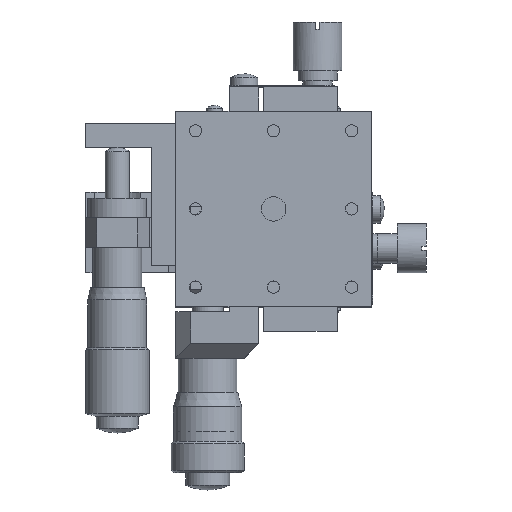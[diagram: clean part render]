
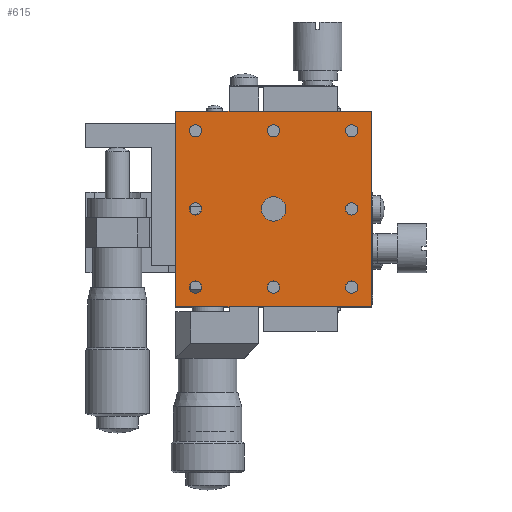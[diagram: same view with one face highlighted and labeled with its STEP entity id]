
A CAD part, top view. The second image highlights one B-rep face of the part: STEP entity #615.
In plain terms, the highlighted planar face has unit normal (0, 0, 1).
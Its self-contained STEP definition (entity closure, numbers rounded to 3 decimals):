
#615 = ADVANCED_FACE( '', ( #1349, #1350, #1351, #1352, #1353, #1354, #1355, #1356, #1357, #1358 ), #1359, .T. );
#1349 = FACE_BOUND( '', #2252, .T. );
#1350 = FACE_BOUND( '', #2253, .T. );
#1351 = FACE_BOUND( '', #2254, .T. );
#1352 = FACE_BOUND( '', #2255, .T. );
#1353 = FACE_BOUND( '', #2256, .T. );
#1354 = FACE_BOUND( '', #2257, .T. );
#1355 = FACE_BOUND( '', #2258, .T. );
#1356 = FACE_BOUND( '', #2259, .T. );
#1357 = FACE_BOUND( '', #2260, .T. );
#1358 = FACE_OUTER_BOUND( '', #2261, .T. );
#1359 = PLANE( '', #2262 );
#2252 = EDGE_LOOP( '', ( #4251 ) );
#2253 = EDGE_LOOP( '', ( #4252 ) );
#2254 = EDGE_LOOP( '', ( #4253 ) );
#2255 = EDGE_LOOP( '', ( #4254 ) );
#2256 = EDGE_LOOP( '', ( #4255 ) );
#2257 = EDGE_LOOP( '', ( #4256 ) );
#2258 = EDGE_LOOP( '', ( #4257 ) );
#2259 = EDGE_LOOP( '', ( #4258 ) );
#2260 = EDGE_LOOP( '', ( #4259 ) );
#2261 = EDGE_LOOP( '', ( #4260, #4261, #4262, #4263 ) );
#2262 = AXIS2_PLACEMENT_3D( '', #4264, #4265, #4266 );
#4251 = ORIENTED_EDGE( '', *, *, #5348, .T. );
#4252 = ORIENTED_EDGE( '', *, *, #5349, .T. );
#4253 = ORIENTED_EDGE( '', *, *, #5350, .T. );
#4254 = ORIENTED_EDGE( '', *, *, #5351, .T. );
#4255 = ORIENTED_EDGE( '', *, *, #5352, .T. );
#4256 = ORIENTED_EDGE( '', *, *, #5353, .T. );
#4257 = ORIENTED_EDGE( '', *, *, #5354, .T. );
#4258 = ORIENTED_EDGE( '', *, *, #5355, .T. );
#4259 = ORIENTED_EDGE( '', *, *, #5356, .T. );
#4260 = ORIENTED_EDGE( '', *, *, #5357, .F. );
#4261 = ORIENTED_EDGE( '', *, *, #5358, .F. );
#4262 = ORIENTED_EDGE( '', *, *, #5359, .F. );
#4263 = ORIENTED_EDGE( '', *, *, #5360, .F. );
#4264 = CARTESIAN_POINT( '', ( 0., 0., 60. ) );
#4265 = DIRECTION( '', ( 0., 0., 1. ) );
#4266 = DIRECTION( '', ( 0., -1., 0. ) );
#5348 = EDGE_CURVE( '', #6402, #6402, #6403, .T. );
#5349 = EDGE_CURVE( '', #6404, #6404, #6405, .T. );
#5350 = EDGE_CURVE( '', #6406, #6406, #6407, .T. );
#5351 = EDGE_CURVE( '', #6408, #6408, #6409, .T. );
#5352 = EDGE_CURVE( '', #6410, #6410, #6411, .T. );
#5353 = EDGE_CURVE( '', #6412, #6412, #6413, .T. );
#5354 = EDGE_CURVE( '', #6414, #6414, #6415, .T. );
#5355 = EDGE_CURVE( '', #6416, #6416, #6417, .T. );
#5356 = EDGE_CURVE( '', #6418, #6418, #6419, .T. );
#5357 = EDGE_CURVE( '', #6420, #6421, #6422, .T. );
#5358 = EDGE_CURVE( '', #6423, #6420, #6424, .T. );
#5359 = EDGE_CURVE( '', #6425, #6423, #6426, .T. );
#5360 = EDGE_CURVE( '', #6421, #6425, #6427, .T. );
#6402 = VERTEX_POINT( '', #8022 );
#6403 = CIRCLE( '', #8023, 2.5 );
#6404 = VERTEX_POINT( '', #8024 );
#6405 = CIRCLE( '', #8025, 1.25 );
#6406 = VERTEX_POINT( '', #8026 );
#6407 = CIRCLE( '', #8027, 1.25 );
#6408 = VERTEX_POINT( '', #8028 );
#6409 = CIRCLE( '', #8029, 1.25 );
#6410 = VERTEX_POINT( '', #8030 );
#6411 = CIRCLE( '', #8031, 1.25 );
#6412 = VERTEX_POINT( '', #8032 );
#6413 = CIRCLE( '', #8033, 1.25 );
#6414 = VERTEX_POINT( '', #8034 );
#6415 = CIRCLE( '', #8035, 1.25 );
#6416 = VERTEX_POINT( '', #8036 );
#6417 = CIRCLE( '', #8037, 1.25 );
#6418 = VERTEX_POINT( '', #8038 );
#6419 = CIRCLE( '', #8039, 1.25 );
#6420 = VERTEX_POINT( '', #8040 );
#6421 = VERTEX_POINT( '', #8041 );
#6422 = LINE( '', #8042, #8043 );
#6423 = VERTEX_POINT( '', #8044 );
#6424 = LINE( '', #8045, #8046 );
#6425 = VERTEX_POINT( '', #8047 );
#6426 = LINE( '', #8048, #8049 );
#6427 = LINE( '', #8050, #8051 );
#8022 = CARTESIAN_POINT( '', ( 0., -2.5, 60. ) );
#8023 = AXIS2_PLACEMENT_3D( '', #9414, #9415, #9416 );
#8024 = CARTESIAN_POINT( '', ( -16., -1.25, 60. ) );
#8025 = AXIS2_PLACEMENT_3D( '', #9417, #9418, #9419 );
#8026 = CARTESIAN_POINT( '', ( -16., 14.75, 60. ) );
#8027 = AXIS2_PLACEMENT_3D( '', #9420, #9421, #9422 );
#8028 = CARTESIAN_POINT( '', ( 0., 14.75, 60. ) );
#8029 = AXIS2_PLACEMENT_3D( '', #9423, #9424, #9425 );
#8030 = CARTESIAN_POINT( '', ( 16., 14.75, 60. ) );
#8031 = AXIS2_PLACEMENT_3D( '', #9426, #9427, #9428 );
#8032 = CARTESIAN_POINT( '', ( 16., -1.25, 60. ) );
#8033 = AXIS2_PLACEMENT_3D( '', #9429, #9430, #9431 );
#8034 = CARTESIAN_POINT( '', ( 16., -17.25, 60. ) );
#8035 = AXIS2_PLACEMENT_3D( '', #9432, #9433, #9434 );
#8036 = CARTESIAN_POINT( '', ( 0., -17.25, 60. ) );
#8037 = AXIS2_PLACEMENT_3D( '', #9435, #9436, #9437 );
#8038 = CARTESIAN_POINT( '', ( -16., -17.25, 60. ) );
#8039 = AXIS2_PLACEMENT_3D( '', #9438, #9439, #9440 );
#8040 = CARTESIAN_POINT( '', ( -20., -20., 60. ) );
#8041 = CARTESIAN_POINT( '', ( -20., 20., 60. ) );
#8042 = CARTESIAN_POINT( '', ( -20., 0., 60. ) );
#8043 = VECTOR( '', #9441, 1000. );
#8044 = CARTESIAN_POINT( '', ( 20., -20., 60. ) );
#8045 = CARTESIAN_POINT( '', ( 0., -20., 60. ) );
#8046 = VECTOR( '', #9442, 1000. );
#8047 = CARTESIAN_POINT( '', ( 20., 20., 60. ) );
#8048 = CARTESIAN_POINT( '', ( 20., 0., 60. ) );
#8049 = VECTOR( '', #9443, 1000. );
#8050 = CARTESIAN_POINT( '', ( 0., 20., 60. ) );
#8051 = VECTOR( '', #9444, 1000. );
#9414 = CARTESIAN_POINT( '', ( 0., 0., 60. ) );
#9415 = DIRECTION( '', ( 0., 0., -1. ) );
#9416 = DIRECTION( '', ( 0., -1., 0. ) );
#9417 = CARTESIAN_POINT( '', ( -16., 0., 60. ) );
#9418 = DIRECTION( '', ( 0., 0., -1. ) );
#9419 = DIRECTION( '', ( 0., -1., 0. ) );
#9420 = CARTESIAN_POINT( '', ( -16., 16., 60. ) );
#9421 = DIRECTION( '', ( 0., 0., -1. ) );
#9422 = DIRECTION( '', ( 0., -1., 0. ) );
#9423 = CARTESIAN_POINT( '', ( 0., 16., 60. ) );
#9424 = DIRECTION( '', ( 0., 0., -1. ) );
#9425 = DIRECTION( '', ( 0., -1., 0. ) );
#9426 = CARTESIAN_POINT( '', ( 16., 16., 60. ) );
#9427 = DIRECTION( '', ( 0., 0., -1. ) );
#9428 = DIRECTION( '', ( 0., -1., 0. ) );
#9429 = CARTESIAN_POINT( '', ( 16., 0., 60. ) );
#9430 = DIRECTION( '', ( 0., 0., -1. ) );
#9431 = DIRECTION( '', ( 0., -1., 0. ) );
#9432 = CARTESIAN_POINT( '', ( 16., -16., 60. ) );
#9433 = DIRECTION( '', ( 0., 0., -1. ) );
#9434 = DIRECTION( '', ( 0., -1., 0. ) );
#9435 = CARTESIAN_POINT( '', ( 0., -16., 60. ) );
#9436 = DIRECTION( '', ( 0., 0., -1. ) );
#9437 = DIRECTION( '', ( 0., -1., 0. ) );
#9438 = CARTESIAN_POINT( '', ( -16., -16., 60. ) );
#9439 = DIRECTION( '', ( 0., 0., -1. ) );
#9440 = DIRECTION( '', ( 0., -1., 0. ) );
#9441 = DIRECTION( '', ( 0., 1., 0. ) );
#9442 = DIRECTION( '', ( -1., 0., 0. ) );
#9443 = DIRECTION( '', ( 0., -1., 0. ) );
#9444 = DIRECTION( '', ( 1., 0., 0. ) );
